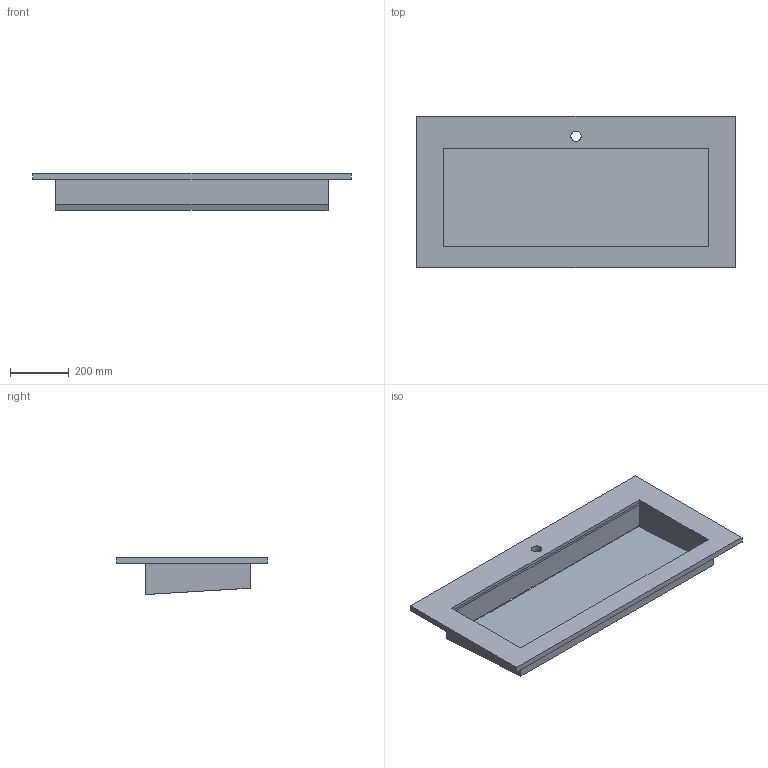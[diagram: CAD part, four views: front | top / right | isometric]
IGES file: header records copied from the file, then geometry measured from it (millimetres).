
Start section: Data from Parasolid IGES Translator 19.0.9, Copyright(c) 2006 Siemens PL M Software. All Rights Reserved.
Global section: file name: noorth-top-H 2 D 51,3 W 108_4649.igs; native system: By Siemens PLM Incorporated; preprocessor: XPlus GENERIC/IGES 19.0.9; author: Noname; organization: Noname; date: 20200603.113430; units: metre
Bounding box: 1080 x 512 x 125.7 mm (x, y, z)
Volume: 12024179 mm3; surface area: 1754872 mm2
Topology: 2 solids, 2 shells, 30 faces, 81 edges, 54 vertices
Faces by surface type: plane 29, cylinder 1
Full cylindrical faces by diameter (mm): 34.9 x1
